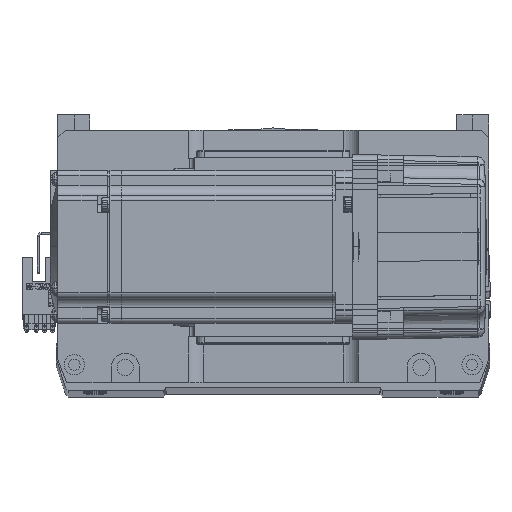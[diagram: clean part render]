
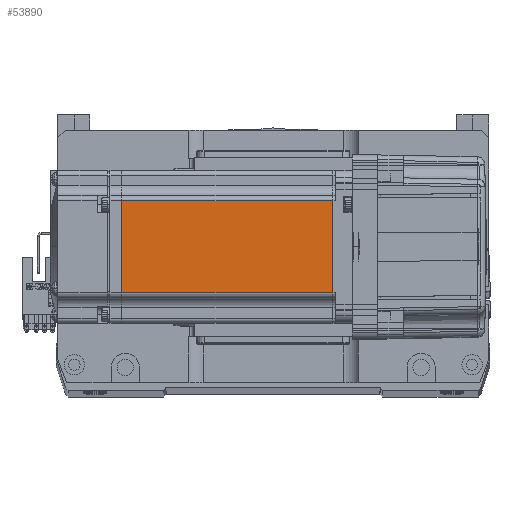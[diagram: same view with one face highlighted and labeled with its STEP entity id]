
A CAD part, top view. The second image highlights one B-rep face of the part: STEP entity #53890.
In plain terms, the highlighted planar face has unit normal (0, 0, 1).
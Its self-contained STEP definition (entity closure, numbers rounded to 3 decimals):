
#886 = CARTESIAN_POINT ( 'NONE',  ( -6.5, -25., 30. ) ) ;
#926 = ORIENTED_EDGE ( 'NONE', *, *, #5131, .F. ) ;
#5089 = CARTESIAN_POINT ( 'NONE',  ( -7.75, 18., 30. ) ) ;
#5131 = EDGE_CURVE ( 'NONE', #40661, #33493, #51730, .T. ) ;
#5768 = DIRECTION ( 'NONE',  ( 0., 0., 1. ) ) ;
#6649 = VECTOR ( 'NONE', #64795, 1000. ) ;
#8019 = VERTEX_POINT ( 'NONE', #26836 ) ;
#8234 = VERTEX_POINT ( 'NONE', #48070 ) ;
#12615 = CARTESIAN_POINT ( 'NONE',  ( -6.5, -18., 30. ) ) ;
#14509 = EDGE_LOOP ( 'NONE', ( #926, #57713, #51595, #39907 ) ) ;
#15882 = PLANE ( 'NONE',  #21115 ) ;
#17678 = DIRECTION ( 'NONE',  ( -1., 0., 0. ) ) ;
#20061 = CARTESIAN_POINT ( 'NONE',  ( -7.75, -18., 30. ) ) ;
#21115 = AXIS2_PLACEMENT_3D ( 'NONE', #886, #5768, #41735 ) ;
#22478 = VECTOR ( 'NONE', #29602, 1000. ) ;
#23683 = LINE ( 'NONE', #48815, #41099 ) ;
#24224 = CARTESIAN_POINT ( 'NONE',  ( -7.75, 0., 30. ) ) ;
#26836 = CARTESIAN_POINT ( 'NONE',  ( -90.45, -18., 30. ) ) ;
#29498 = CARTESIAN_POINT ( 'NONE',  ( -90.45, 0., 30. ) ) ;
#29602 = DIRECTION ( 'NONE',  ( 0., -1., 0. ) ) ;
#30020 = VECTOR ( 'NONE', #17678, 1000. ) ;
#33493 = VERTEX_POINT ( 'NONE', #20061 ) ;
#35888 = EDGE_CURVE ( 'NONE', #33493, #8019, #59296, .T. ) ;
#38905 = DIRECTION ( 'NONE',  ( -1., 0., 0. ) ) ;
#39907 = ORIENTED_EDGE ( 'NONE', *, *, #35888, .F. ) ;
#40661 = VERTEX_POINT ( 'NONE', #5089 ) ;
#41045 = EDGE_CURVE ( 'NONE', #8234, #8019, #50871, .T. ) ;
#41099 = VECTOR ( 'NONE', #38905, 1000. ) ;
#41735 = DIRECTION ( 'NONE',  ( 1., 0., 0. ) ) ;
#46475 = EDGE_CURVE ( 'NONE', #40661, #8234, #23683, .T. ) ;
#48070 = CARTESIAN_POINT ( 'NONE',  ( -90.45, 18., 30. ) ) ;
#48815 = CARTESIAN_POINT ( 'NONE',  ( -6.5, 18., 30. ) ) ;
#50871 = LINE ( 'NONE', #29498, #6649 ) ;
#51595 = ORIENTED_EDGE ( 'NONE', *, *, #41045, .T. ) ;
#51730 = LINE ( 'NONE', #24224, #22478 ) ;
#53890 = ADVANCED_FACE ( 'NONE', ( #64348 ), #15882, .T. ) ;
#57713 = ORIENTED_EDGE ( 'NONE', *, *, #46475, .T. ) ;
#59296 = LINE ( 'NONE', #12615, #30020 ) ;
#64348 = FACE_OUTER_BOUND ( 'NONE', #14509, .T. ) ;
#64795 = DIRECTION ( 'NONE',  ( 0., -1., 0. ) ) ;
